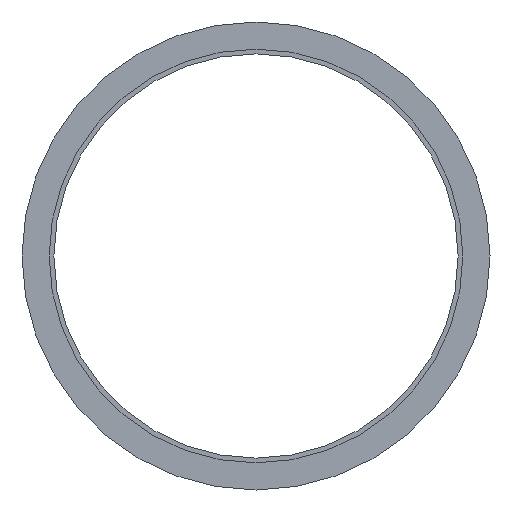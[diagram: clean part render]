
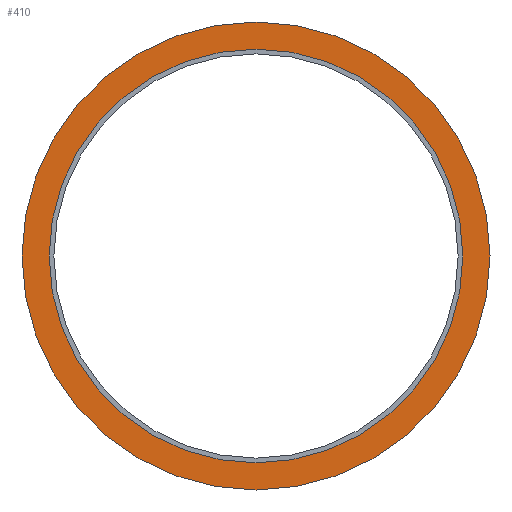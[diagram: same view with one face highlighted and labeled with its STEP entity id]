
A CAD part, left-side view. The second image highlights one B-rep face of the part: STEP entity #410.
In plain terms, the highlighted planar face has unit normal (-1, 0, 0).
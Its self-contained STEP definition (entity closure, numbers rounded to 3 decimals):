
#16 = FACE_BOUND ( 'NONE', #245, .T. ) ;
#45 = CARTESIAN_POINT ( 'NONE',  ( -3.374, -0.225, 19.45 ) ) ;
#52 = EDGE_CURVE ( 'NONE', #106, #206, #97, .T. ) ;
#72 = CIRCLE ( 'NONE', #279, 19.45 ) ;
#97 = CIRCLE ( 'NONE', #271, 22. ) ;
#106 = VERTEX_POINT ( 'NONE', #314 ) ;
#120 = CARTESIAN_POINT ( 'NONE',  ( -3.374, -0.225, 0. ) ) ;
#125 = ORIENTED_EDGE ( 'NONE', *, *, #266, .F. ) ;
#130 = PLANE ( 'NONE',  #187 ) ;
#144 = CARTESIAN_POINT ( 'NONE',  ( -3.374, -0.225, 0. ) ) ;
#153 = ORIENTED_EDGE ( 'NONE', *, *, #253, .T. ) ;
#167 = DIRECTION ( 'NONE',  ( 1., 0., 0. ) ) ;
#181 = CIRCLE ( 'NONE', #406, 19.45 ) ;
#184 = DIRECTION ( 'NONE',  ( 0., 0., -1. ) ) ;
#186 = DIRECTION ( 'NONE',  ( 1., 0., 0. ) ) ;
#187 = AXIS2_PLACEMENT_3D ( 'NONE', #295, #272, #328 ) ;
#206 = VERTEX_POINT ( 'NONE', #380 ) ;
#227 = DIRECTION ( 'NONE',  ( 0., 0., -1. ) ) ;
#245 = EDGE_LOOP ( 'NONE', ( #153, #370 ) ) ;
#253 = EDGE_CURVE ( 'NONE', #290, #364, #72, .T. ) ;
#255 = CARTESIAN_POINT ( 'NONE',  ( -3.374, -0.225, 0. ) ) ;
#266 = EDGE_CURVE ( 'NONE', #206, #106, #324, .T. ) ;
#271 = AXIS2_PLACEMENT_3D ( 'NONE', #144, #167, #184 ) ;
#272 = DIRECTION ( 'NONE',  ( -1., 0., 0. ) ) ;
#279 = AXIS2_PLACEMENT_3D ( 'NONE', #120, #311, #288 ) ;
#282 = CARTESIAN_POINT ( 'NONE',  ( -3.374, -0.225, 0. ) ) ;
#288 = DIRECTION ( 'NONE',  ( 0., 0., -1. ) ) ;
#290 = VERTEX_POINT ( 'NONE', #331 ) ;
#295 = CARTESIAN_POINT ( 'NONE',  ( -3.374, -0.225, 0. ) ) ;
#297 = ORIENTED_EDGE ( 'NONE', *, *, #52, .F. ) ;
#311 = DIRECTION ( 'NONE',  ( 1., 0., 0. ) ) ;
#314 = CARTESIAN_POINT ( 'NONE',  ( -3.374, -0.225, -22. ) ) ;
#319 = EDGE_CURVE ( 'NONE', #364, #290, #181, .T. ) ;
#323 = DIRECTION ( 'NONE',  ( 0., 0., -1. ) ) ;
#324 = CIRCLE ( 'NONE', #336, 22. ) ;
#328 = DIRECTION ( 'NONE',  ( 0., 0., 1. ) ) ;
#331 = CARTESIAN_POINT ( 'NONE',  ( -3.374, -0.225, -19.45 ) ) ;
#336 = AXIS2_PLACEMENT_3D ( 'NONE', #282, #353, #227 ) ;
#353 = DIRECTION ( 'NONE',  ( 1., 0., 0. ) ) ;
#364 = VERTEX_POINT ( 'NONE', #45 ) ;
#370 = ORIENTED_EDGE ( 'NONE', *, *, #319, .T. ) ;
#380 = CARTESIAN_POINT ( 'NONE',  ( -3.374, -0.225, 22. ) ) ;
#389 = EDGE_LOOP ( 'NONE', ( #297, #125 ) ) ;
#395 = FACE_OUTER_BOUND ( 'NONE', #389, .T. ) ;
#406 = AXIS2_PLACEMENT_3D ( 'NONE', #255, #186, #323 ) ;
#410 = ADVANCED_FACE ( 'NONE', ( #16, #395 ), #130, .T. ) ;
